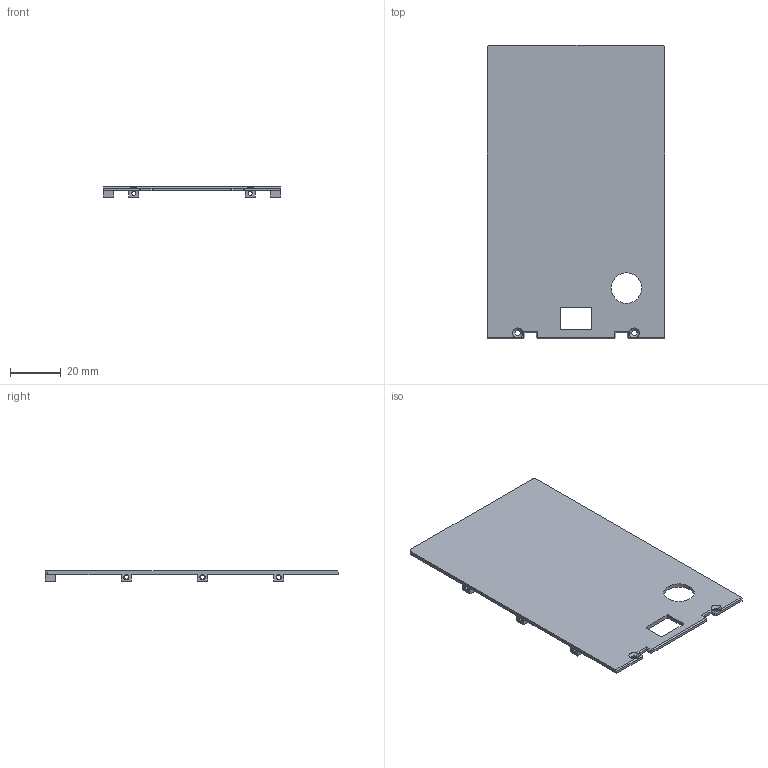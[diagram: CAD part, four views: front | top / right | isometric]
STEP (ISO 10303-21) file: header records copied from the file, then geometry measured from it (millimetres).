
FILE_DESCRIPTION (( 'STEP AP203' ), '1' );
FILE_NAME ('干扰枪-电池盒3-.STEP', '2026-09-24T09:25:31', ( '' ), ( '' ), 'SwSTEP 2.0', 'SolidWorks 2016', '' );
FILE_SCHEMA (( 'CONFIG_CONTROL_DESIGN' ));
Length unit declared in the file: millimetre
Products named in the file (1): 干扰枪-电池盒3-
Bounding box: 69.8 x 115.7 x 4 mm (x, y, z)
Volume: 11966.8 mm3; surface area: 16766.2 mm2
Topology: 1 solids, 1 shells, 121 faces, 323 edges, 202 vertices
Faces by surface type: plane 67, cylinder 34, cone 20
Entity records: 3852 total; most frequent: CARTESIAN_POINT 669, ORIENTED_EDGE 646, DIRECTION 645, EDGE_CURVE 323, LINE 233, VECTOR 233, AXIS2_PLACEMENT_3D 206, VERTEX_POINT 202
